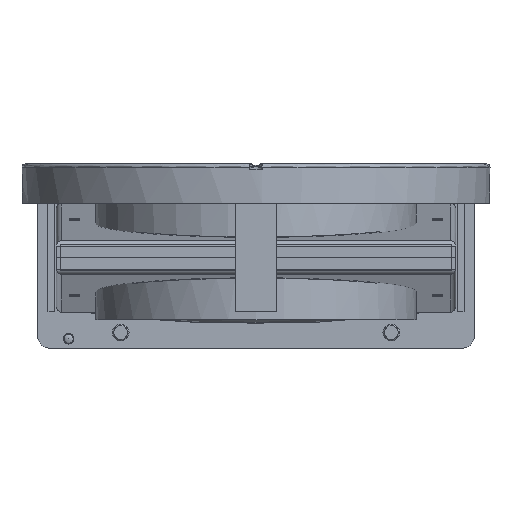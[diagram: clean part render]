
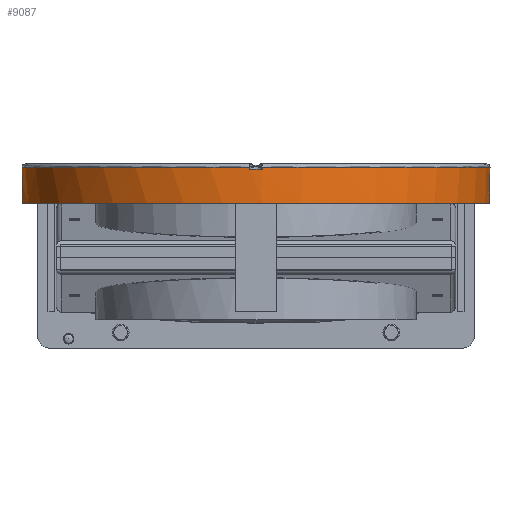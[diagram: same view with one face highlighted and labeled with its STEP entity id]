
A CAD part, front view. The second image highlights one B-rep face of the part: STEP entity #9087.
In plain terms, the highlighted cylindrical face has radius 112.4 mm (diameter 224.8 mm), a full revolution.
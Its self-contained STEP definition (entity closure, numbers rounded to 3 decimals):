
#4555=ELLIPSE('',#29384,224.8,112.4);
#4556=ELLIPSE('',#29385,224.8,112.4);
#4557=ELLIPSE('',#29387,224.8,112.4);
#4558=ELLIPSE('',#29388,224.8,112.4);
#4559=ELLIPSE('',#29394,112.829,112.4);
#5972=CYLINDRICAL_SURFACE('',#29395,112.4);
#6578=FACE_BOUND('',#12230,.T.);
#6579=FACE_BOUND('',#12231,.T.);
#6580=FACE_BOUND('',#12232,.T.);
#6581=FACE_BOUND('',#12233,.T.);
#7784=CIRCLE('',#29383,112.4);
#7785=CIRCLE('',#29386,112.4);
#7786=CIRCLE('',#29389,112.4);
#7787=CIRCLE('',#29390,112.4);
#7788=CIRCLE('',#29391,112.4);
#7789=CIRCLE('',#29392,112.4);
#7790=CIRCLE('',#29393,112.4);
#9087=ADVANCED_FACE('',(#6578,#6579,#6580,#6581),#5972,.T.);
#12230=EDGE_LOOP('',(#18367,#18368,#18369));
#12231=EDGE_LOOP('',(#18370,#18371,#18372));
#12232=EDGE_LOOP('',(#18373,#18374,#18375,#18376,#18377,#18378,#18379,#18380));
#12233=EDGE_LOOP('',(#18381,#18382));
#18367=ORIENTED_EDGE('',*,*,#23904,.F.);
#18368=ORIENTED_EDGE('',*,*,#23905,.F.);
#18369=ORIENTED_EDGE('',*,*,#23906,.F.);
#18370=ORIENTED_EDGE('',*,*,#23907,.F.);
#18371=ORIENTED_EDGE('',*,*,#23908,.F.);
#18372=ORIENTED_EDGE('',*,*,#23909,.F.);
#18373=ORIENTED_EDGE('',*,*,#23910,.T.);
#18374=ORIENTED_EDGE('',*,*,#23911,.T.);
#18375=ORIENTED_EDGE('',*,*,#23912,.T.);
#18376=ORIENTED_EDGE('',*,*,#23913,.T.);
#18377=ORIENTED_EDGE('',*,*,#23914,.T.);
#18378=ORIENTED_EDGE('',*,*,#23915,.T.);
#18379=ORIENTED_EDGE('',*,*,#23916,.T.);
#18380=ORIENTED_EDGE('',*,*,#23917,.T.);
#18381=ORIENTED_EDGE('',*,*,#23918,.F.);
#18382=ORIENTED_EDGE('',*,*,#23919,.T.);
#20793=VERTEX_POINT('',#55167);
#20794=VERTEX_POINT('',#55168);
#20795=VERTEX_POINT('',#55170);
#20796=VERTEX_POINT('',#55173);
#20797=VERTEX_POINT('',#55174);
#20798=VERTEX_POINT('',#55176);
#20799=VERTEX_POINT('',#55179);
#20800=VERTEX_POINT('',#55180);
#20801=VERTEX_POINT('',#55182);
#20802=VERTEX_POINT('',#55184);
#20803=VERTEX_POINT('',#55186);
#20804=VERTEX_POINT('',#55188);
#20805=VERTEX_POINT('',#55190);
#20806=VERTEX_POINT('',#55192);
#20807=VERTEX_POINT('',#55195);
#20808=VERTEX_POINT('',#55196);
#23904=EDGE_CURVE('',#20793,#20794,#7784,.T.);
#23905=EDGE_CURVE('',#20795,#20793,#4555,.T.);
#23906=EDGE_CURVE('',#20794,#20795,#4556,.T.);
#23907=EDGE_CURVE('',#20796,#20797,#7785,.T.);
#23908=EDGE_CURVE('',#20798,#20796,#4557,.T.);
#23909=EDGE_CURVE('',#20797,#20798,#4558,.T.);
#23910=EDGE_CURVE('',#20799,#20800,#7786,.T.);
#23911=EDGE_CURVE('',#20800,#20801,#25738,.T.);
#23912=EDGE_CURVE('',#20801,#20802,#7787,.T.);
#23913=EDGE_CURVE('',#20802,#20803,#25739,.T.);
#23914=EDGE_CURVE('',#20803,#20804,#7788,.T.);
#23915=EDGE_CURVE('',#20804,#20805,#25740,.T.);
#23916=EDGE_CURVE('',#20805,#20806,#7789,.T.);
#23917=EDGE_CURVE('',#20806,#20799,#25741,.T.);
#23918=EDGE_CURVE('',#20807,#20808,#7790,.T.);
#23919=EDGE_CURVE('',#20807,#20808,#4559,.T.);
#25738=LINE('',#55181,#27420);
#25739=LINE('',#55185,#27421);
#25740=LINE('',#55189,#27422);
#25741=LINE('',#55193,#27423);
#27420=VECTOR('',#35191,1.);
#27421=VECTOR('',#35194,1.);
#27422=VECTOR('',#35197,1.);
#27423=VECTOR('',#35200,1.);
#29383=AXIS2_PLACEMENT_3D('',#55166,#35177,#35178);
#29384=AXIS2_PLACEMENT_3D('',#55169,#35179,#35180);
#29385=AXIS2_PLACEMENT_3D('',#55171,#35181,#35182);
#29386=AXIS2_PLACEMENT_3D('',#55172,#35183,#35184);
#29387=AXIS2_PLACEMENT_3D('',#55175,#35185,#35186);
#29388=AXIS2_PLACEMENT_3D('',#55177,#35187,#35188);
#29389=AXIS2_PLACEMENT_3D('',#55178,#35189,#35190);
#29390=AXIS2_PLACEMENT_3D('',#55183,#35192,#35193);
#29391=AXIS2_PLACEMENT_3D('',#55187,#35195,#35196);
#29392=AXIS2_PLACEMENT_3D('',#55191,#35198,#35199);
#29393=AXIS2_PLACEMENT_3D('',#55194,#35201,#35202);
#29394=AXIS2_PLACEMENT_3D('',#55197,#35203,#35204);
#29395=AXIS2_PLACEMENT_3D('',#55198,#35205,#35206);
#35177=DIRECTION('',(1.,0.,0.));
#35178=DIRECTION('',(0.,0.,1.));
#35179=DIRECTION('',(-0.5,0.866,0.));
#35180=DIRECTION('',(0.866,0.5,0.));
#35181=DIRECTION('',(-0.5,-0.866,0.));
#35182=DIRECTION('',(0.866,-0.5,0.));
#35183=DIRECTION('',(1.,0.,0.));
#35184=DIRECTION('',(0.,0.,1.));
#35185=DIRECTION('',(-0.5,-0.866,0.));
#35186=DIRECTION('',(0.866,-0.5,0.));
#35187=DIRECTION('',(-0.5,0.866,0.));
#35188=DIRECTION('',(0.866,0.5,0.));
#35189=DIRECTION('',(1.,0.,0.));
#35190=DIRECTION('',(0.,1.,0.027));
#35191=DIRECTION('',(1.,0.,0.));
#35192=DIRECTION('',(1.,0.,0.));
#35193=DIRECTION('',(0.,-1.,0.027));
#35194=DIRECTION('',(-1.,0.,0.));
#35195=DIRECTION('',(1.,0.,0.));
#35196=DIRECTION('',(0.,-1.,-0.027));
#35197=DIRECTION('',(1.,0.,0.));
#35198=DIRECTION('',(1.,0.,0.));
#35199=DIRECTION('',(0.,1.,-0.027));
#35200=DIRECTION('',(-1.,0.,0.));
#35201=DIRECTION('',(1.,0.,0.));
#35202=DIRECTION('',(0.,-1.,0.));
#35203=DIRECTION('',(-0.996,-0.087,0.));
#35204=DIRECTION('',(0.087,-0.996,0.));
#35205=DIRECTION('',(1.,0.,0.));
#35206=DIRECTION('',(0.,-1.,0.));
#55166=CARTESIAN_POINT('',(-14.,0.,0.));
#55167=CARTESIAN_POINT('',(-14.,-2.598,-112.37));
#55168=CARTESIAN_POINT('',(-14.,2.598,-112.37));
#55169=CARTESIAN_POINT('',(-9.5,0.,0.));
#55170=CARTESIAN_POINT('',(-9.5,0.,-112.4));
#55171=CARTESIAN_POINT('',(-9.5,0.,0.));
#55172=CARTESIAN_POINT('',(-14.,0.,0.));
#55173=CARTESIAN_POINT('',(-14.,2.598,112.37));
#55174=CARTESIAN_POINT('',(-14.,-2.598,112.37));
#55175=CARTESIAN_POINT('',(-9.5,0.,0.));
#55176=CARTESIAN_POINT('',(-9.5,0.,112.4));
#55177=CARTESIAN_POINT('',(-9.5,0.,0.));
#55178=CARTESIAN_POINT('',(-17.5,0.,0.));
#55179=CARTESIAN_POINT('',(-17.5,112.36,3.));
#55180=CARTESIAN_POINT('',(-17.5,-112.36,3.));
#55181=CARTESIAN_POINT('',(-17.5,-112.36,3.));
#55182=CARTESIAN_POINT('',(-16.5,-112.36,3.));
#55183=CARTESIAN_POINT('',(-16.5,0.,0.));
#55184=CARTESIAN_POINT('',(-16.5,-112.36,-3.));
#55185=CARTESIAN_POINT('',(-16.5,-112.36,-3.));
#55186=CARTESIAN_POINT('',(-17.5,-112.36,-3.));
#55187=CARTESIAN_POINT('',(-17.5,0.,0.));
#55188=CARTESIAN_POINT('',(-17.5,112.36,-3.));
#55189=CARTESIAN_POINT('',(-17.5,112.36,-3.));
#55190=CARTESIAN_POINT('',(-16.5,112.36,-3.));
#55191=CARTESIAN_POINT('',(-16.5,0.,0.));
#55192=CARTESIAN_POINT('',(-16.5,112.36,3.));
#55193=CARTESIAN_POINT('',(-16.5,112.36,3.));
#55194=CARTESIAN_POINT('',(0.,0.,0.));
#55195=CARTESIAN_POINT('',(0.,108.597,28.991));
#55196=CARTESIAN_POINT('',(0.,108.597,-28.991));
#55197=CARTESIAN_POINT('',(9.501,0.,0.));
#55198=CARTESIAN_POINT('',(-19.,0.,0.));
